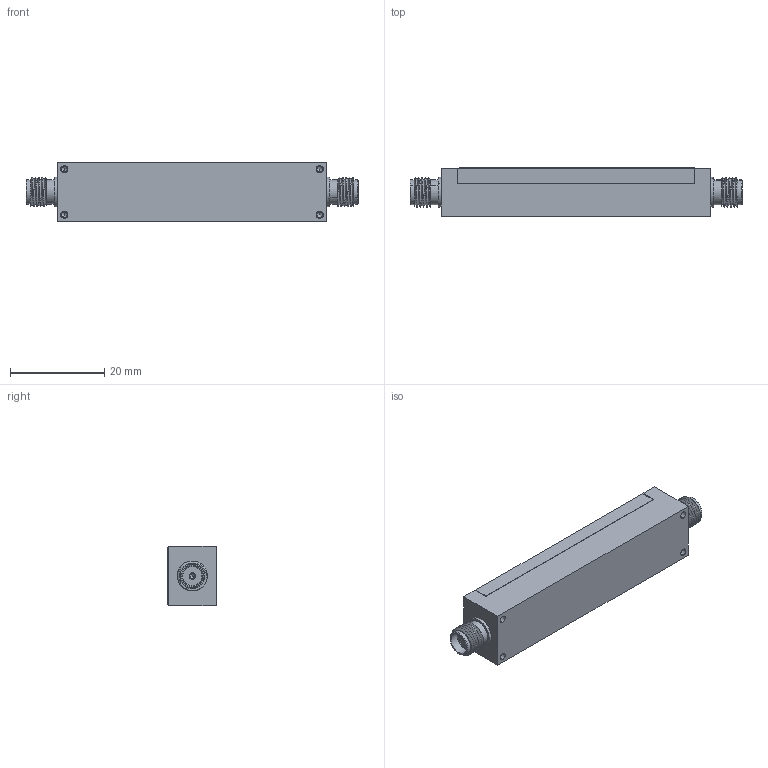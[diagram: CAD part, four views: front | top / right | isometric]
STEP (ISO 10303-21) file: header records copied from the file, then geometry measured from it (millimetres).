
FILE_DESCRIPTION (( 'STEP AP214' ), '1' );
FILE_NAME ('CL9D43-300-CD-SFF.STEP', '2024-01-19T14:54:21', ( '' ), ( '' ), 'SwSTEP 2.0', 'SolidWorks 2023', '' );
FILE_SCHEMA (( 'AUTOMOTIVE_DESIGN' ));
Length unit declared in the file: inch
Products named in the file (1): CL9D43-300-CD-SFF
Bounding box: 70.36 x 10.29 x 12.7 mm (x, y, z)
Volume: 6478.5 mm3; surface area: 8723.4 mm2
Topology: 25 solids, 27 shells, 1981 faces, 6046 edges, 4276 vertices
Faces by surface type: cylinder 902, plane 495, torus 420, cone 88, sphere 72, bspline 4
Entity records: 113099 total; most frequent: CARTESIAN_POINT 32503, ORIENTED_EDGE 11988, DIRECTION 11125, EDGE_CURVE 5994, AXIS2_PLACEMENT_3D 4488, VERTEX_POINT 4276, CIRCLE 2510, EDGE_LOOP 2260
